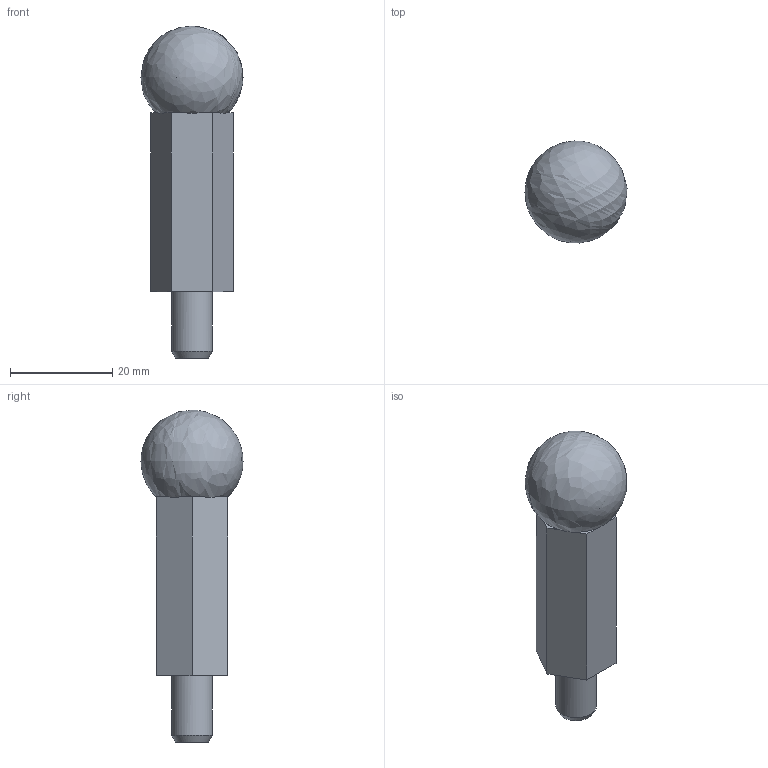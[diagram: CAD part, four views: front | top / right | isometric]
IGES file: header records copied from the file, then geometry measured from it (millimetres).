
Global section: file name: 21.01; native system: Autodesk Inventor 2019; preprocessor: unknown; author: AP.to; date: 20201021.162135; units: millimetre
Bounding box: 19.98 x 19.97 x 65 mm (x, y, z)
Volume: 10299.9 mm3; surface area: 5764.8 mm2
Topology: 4 solids, 4 shells, 43 faces, 112 edges, 75 vertices
Faces by surface type: bspline 43
